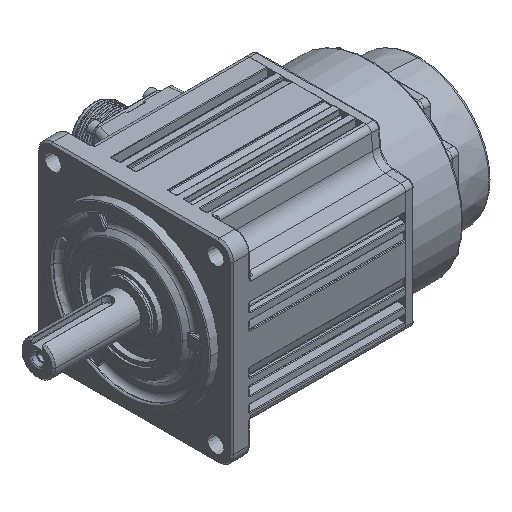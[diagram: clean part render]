
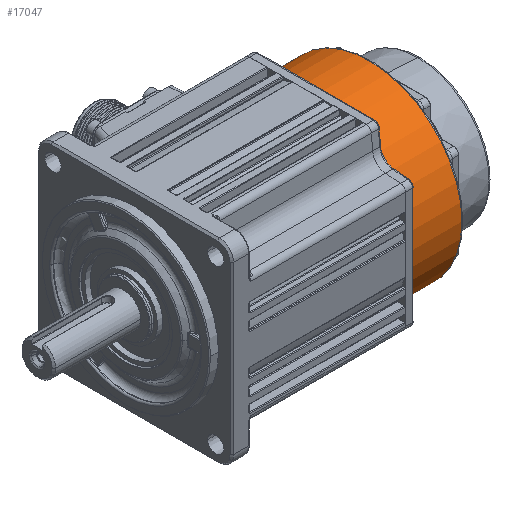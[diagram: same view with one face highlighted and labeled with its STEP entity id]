
A CAD part, isometric view. The second image highlights one B-rep face of the part: STEP entity #17047.
In plain terms, the highlighted cylindrical face has radius 52.5 mm (diameter 105 mm), a partial arc.
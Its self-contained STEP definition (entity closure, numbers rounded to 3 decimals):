
#3709 = DIRECTION ( 'NONE',  ( -1., 0., 0. ) ) ;
#3790 = ORIENTED_EDGE ( 'NONE', *, *, #27776, .T. ) ;
#4185 = CARTESIAN_POINT ( 'NONE',  ( 64.013, 46.285, 14.92 ) ) ;
#4641 = CARTESIAN_POINT ( 'NONE',  ( 64.034, 46.377, 14.708 ) ) ;
#5477 = VERTEX_POINT ( 'NONE', #23600 ) ;
#5738 = CARTESIAN_POINT ( 'NONE',  ( 93.313, -54.367, -6. ) ) ;
#6871 = CIRCLE ( 'NONE', #28771, 52.5 ) ;
#7404 = CARTESIAN_POINT ( 'NONE',  ( 64.013, 46.285, 14.92 ) ) ;
#7457 = CARTESIAN_POINT ( 'NONE',  ( 64.013, 46.285, -26.92 ) ) ;
#8528 = CARTESIAN_POINT ( 'NONE',  ( 64.034, 46.377, -26.708 ) ) ;
#8667 = LINE ( 'NONE', #39744, #32584 ) ;
#8867 = ORIENTED_EDGE ( 'NONE', *, *, #12810, .T. ) ;
#8882 = DIRECTION ( 'NONE',  ( -1., 0., 0. ) ) ;
#10871 = EDGE_CURVE ( 'NONE', #39322, #29825, #26605, .T. ) ;
#11332 = VECTOR ( 'NONE', #42066, 1000. ) ;
#11458 = LINE ( 'NONE', #42749, #11332 ) ;
#12810 = EDGE_CURVE ( 'NONE', #19900, #13693, #41817, .T. ) ;
#13192 = CARTESIAN_POINT ( 'NONE',  ( 94.813, -1.867, -6. ) ) ;
#13693 = VERTEX_POINT ( 'NONE', #5738 ) ;
#14304 = DIRECTION ( 'NONE',  ( 0., 1., 0. ) ) ;
#14571 = CARTESIAN_POINT ( 'NONE',  ( 93.313, -1.867, -6. ) ) ;
#16636 = B_SPLINE_CURVE_WITH_KNOTS ( 'NONE', 3,
 ( #29334, #4641, #18605, #7404 ),
 .UNSPECIFIED., .F., .F.,
 ( 4, 4 ),
 ( 0., 0. ),
 .UNSPECIFIED. ) ;
#17047 = ADVANCED_FACE ( 'NONE', ( #20060 ), #24971, .T. ) ;
#17385 = CARTESIAN_POINT ( 'NONE',  ( 64.077, 46.42, -26.607 ) ) ;
#18405 = CIRCLE ( 'NONE', #24234, 52.5 ) ;
#18605 = CARTESIAN_POINT ( 'NONE',  ( 64.013, 46.332, 14.812 ) ) ;
#18746 = VERTEX_POINT ( 'NONE', #4185 ) ;
#19271 = CARTESIAN_POINT ( 'NONE',  ( 64.013, 46.285, -26.92 ) ) ;
#19534 = EDGE_LOOP ( 'NONE', ( #20234, #26968, #3790, #32879, #25568, #8867, #22692 ) ) ;
#19900 = VERTEX_POINT ( 'NONE', #42135 ) ;
#19943 = CARTESIAN_POINT ( 'NONE',  ( 64.013, 46.332, -26.812 ) ) ;
#19964 = EDGE_CURVE ( 'NONE', #38810, #18746, #16636, .T. ) ;
#20060 = FACE_OUTER_BOUND ( 'NONE', #19534, .T. ) ;
#20234 = ORIENTED_EDGE ( 'NONE', *, *, #22378, .T. ) ;
#21226 = AXIS2_PLACEMENT_3D ( 'NONE', #13192, #3709, #24752 ) ;
#21411 = AXIS2_PLACEMENT_3D ( 'NONE', #43805, #25777, #26233 ) ;
#22378 = EDGE_CURVE ( 'NONE', #5477, #38810, #8667, .T. ) ;
#22692 = ORIENTED_EDGE ( 'NONE', *, *, #33247, .T. ) ;
#23600 = CARTESIAN_POINT ( 'NONE',  ( 93.313, 46.42, 14.607 ) ) ;
#24234 = AXIS2_PLACEMENT_3D ( 'NONE', #14571, #32135, #42645 ) ;
#24752 = DIRECTION ( 'NONE',  ( 0., 1., 0. ) ) ;
#24971 = CYLINDRICAL_SURFACE ( 'NONE', #21226, 52.5 ) ;
#25568 = ORIENTED_EDGE ( 'NONE', *, *, #37981, .T. ) ;
#25777 = DIRECTION ( 'NONE',  ( -1., 0., 0. ) ) ;
#26233 = DIRECTION ( 'NONE',  ( 0., -1., 0. ) ) ;
#26605 = B_SPLINE_CURVE_WITH_KNOTS ( 'NONE', 3,
 ( #19271, #19943, #8528, #43909 ),
 .UNSPECIFIED., .F., .F.,
 ( 4, 4 ),
 ( 0., 0. ),
 .UNSPECIFIED. ) ;
#26968 = ORIENTED_EDGE ( 'NONE', *, *, #19964, .T. ) ;
#27776 = EDGE_CURVE ( 'NONE', #18746, #39322, #6871, .T. ) ;
#28771 = AXIS2_PLACEMENT_3D ( 'NONE', #41490, #38053, #14304 ) ;
#29334 = CARTESIAN_POINT ( 'NONE',  ( 64.077, 46.42, 14.607 ) ) ;
#29825 = VERTEX_POINT ( 'NONE', #17385 ) ;
#30404 = CARTESIAN_POINT ( 'NONE',  ( 64.077, 46.42, 14.607 ) ) ;
#32135 = DIRECTION ( 'NONE',  ( -1., 0., 0. ) ) ;
#32584 = VECTOR ( 'NONE', #8882, 1000. ) ;
#32879 = ORIENTED_EDGE ( 'NONE', *, *, #10871, .T. ) ;
#33247 = EDGE_CURVE ( 'NONE', #13693, #5477, #18405, .T. ) ;
#37981 = EDGE_CURVE ( 'NONE', #29825, #19900, #11458, .T. ) ;
#38053 = DIRECTION ( 'NONE',  ( 1., 0., 0. ) ) ;
#38810 = VERTEX_POINT ( 'NONE', #30404 ) ;
#39322 = VERTEX_POINT ( 'NONE', #7457 ) ;
#39744 = CARTESIAN_POINT ( 'NONE',  ( 94.813, 46.42, 14.607 ) ) ;
#41490 = CARTESIAN_POINT ( 'NONE',  ( 64.013, -1.867, -6. ) ) ;
#41817 = CIRCLE ( 'NONE', #21411, 52.5 ) ;
#42066 = DIRECTION ( 'NONE',  ( 1., 0., 0. ) ) ;
#42135 = CARTESIAN_POINT ( 'NONE',  ( 93.313, 46.42, -26.607 ) ) ;
#42645 = DIRECTION ( 'NONE',  ( 0., -1., 0. ) ) ;
#42749 = CARTESIAN_POINT ( 'NONE',  ( 94.813, 46.42, -26.607 ) ) ;
#43805 = CARTESIAN_POINT ( 'NONE',  ( 93.313, -1.867, -6. ) ) ;
#43909 = CARTESIAN_POINT ( 'NONE',  ( 64.077, 46.42, -26.607 ) ) ;
